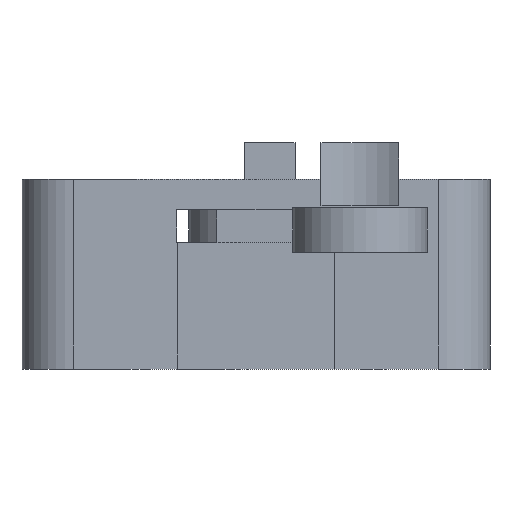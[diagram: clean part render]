
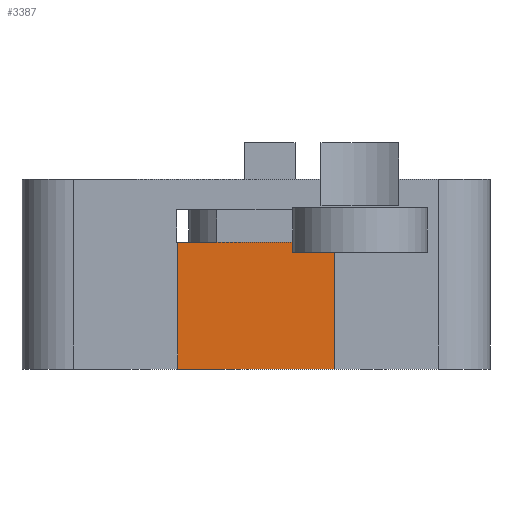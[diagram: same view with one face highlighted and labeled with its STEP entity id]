
A CAD part, left-side view. The second image highlights one B-rep face of the part: STEP entity #3387.
In plain terms, the highlighted planar face has unit normal (-1, 0, 0).
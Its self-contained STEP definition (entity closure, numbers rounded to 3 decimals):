
#72 = PLANE('',#73);
#73 = AXIS2_PLACEMENT_3D('',#74,#75,#76);
#74 = CARTESIAN_POINT('',(-9.,-47.,2.5));
#75 = DIRECTION('',(0.,0.,1.));
#76 = DIRECTION('',(1.,0.,-0.));
#100 = PLANE('',#101);
#101 = AXIS2_PLACEMENT_3D('',#102,#103,#104);
#102 = CARTESIAN_POINT('',(-10.5,-41.,2.5));
#103 = DIRECTION('',(0.,1.,0.));
#104 = DIRECTION('',(0.,-0.,1.));
#263 = PLANE('',#264);
#264 = AXIS2_PLACEMENT_3D('',#265,#266,#267);
#265 = CARTESIAN_POINT('',(-10.5,-35.,2.5));
#266 = DIRECTION('',(0.,1.,0.));
#267 = DIRECTION('',(0.,-0.,1.));
#818 = VERTEX_POINT('',#819);
#819 = CARTESIAN_POINT('',(-10.5,-35.,2.5));
#840 = EDGE_CURVE('',#841,#818,#843,.T.);
#841 = VERTEX_POINT('',#842);
#842 = CARTESIAN_POINT('',(-10.5,-41.,2.5));
#843 = SURFACE_CURVE('',#844,(#848,#855),.PCURVE_S1.);
#844 = LINE('',#845,#846);
#845 = CARTESIAN_POINT('',(-10.5,-41.,2.5));
#846 = VECTOR('',#847,1.);
#847 = DIRECTION('',(0.,1.,0.));
#848 = PCURVE('',#72,#849);
#849 = DEFINITIONAL_REPRESENTATION('',(#850),#854);
#850 = LINE('',#851,#852);
#851 = CARTESIAN_POINT('',(-1.5,6.));
#852 = VECTOR('',#853,1.);
#853 = DIRECTION('',(0.,1.));
#854 = ( GEOMETRIC_REPRESENTATION_CONTEXT(2) 
PARAMETRIC_REPRESENTATION_CONTEXT() REPRESENTATION_CONTEXT('2D SPACE',''
  ) );
#855 = PCURVE('',#856,#861);
#856 = PLANE('',#857);
#857 = AXIS2_PLACEMENT_3D('',#858,#859,#860);
#858 = CARTESIAN_POINT('',(-10.5,-41.,2.5));
#859 = DIRECTION('',(1.,0.,0.));
#860 = DIRECTION('',(0.,0.,1.));
#861 = DEFINITIONAL_REPRESENTATION('',(#862),#866);
#862 = LINE('',#863,#864);
#863 = CARTESIAN_POINT('',(0.,0.));
#864 = VECTOR('',#865,1.);
#865 = DIRECTION('',(0.,-1.));
#866 = ( GEOMETRIC_REPRESENTATION_CONTEXT(2) 
PARAMETRIC_REPRESENTATION_CONTEXT() REPRESENTATION_CONTEXT('2D SPACE',''
  ) );
#1347 = EDGE_CURVE('',#841,#1348,#1350,.T.);
#1348 = VERTEX_POINT('',#1349);
#1349 = CARTESIAN_POINT('',(-10.5,-41.,7.));
#1350 = SURFACE_CURVE('',#1351,(#1355,#1362),.PCURVE_S1.);
#1351 = LINE('',#1352,#1353);
#1352 = CARTESIAN_POINT('',(-10.5,-41.,2.5));
#1353 = VECTOR('',#1354,1.);
#1354 = DIRECTION('',(0.,0.,1.));
#1355 = PCURVE('',#100,#1356);
#1356 = DEFINITIONAL_REPRESENTATION('',(#1357),#1361);
#1357 = LINE('',#1358,#1359);
#1358 = CARTESIAN_POINT('',(0.,0.));
#1359 = VECTOR('',#1360,1.);
#1360 = DIRECTION('',(1.,0.));
#1361 = ( GEOMETRIC_REPRESENTATION_CONTEXT(2) 
PARAMETRIC_REPRESENTATION_CONTEXT() REPRESENTATION_CONTEXT('2D SPACE',''
  ) );
#1362 = PCURVE('',#856,#1363);
#1363 = DEFINITIONAL_REPRESENTATION('',(#1364),#1368);
#1364 = LINE('',#1365,#1366);
#1365 = CARTESIAN_POINT('',(0.,0.));
#1366 = VECTOR('',#1367,1.);
#1367 = DIRECTION('',(1.,0.));
#1368 = ( GEOMETRIC_REPRESENTATION_CONTEXT(2) 
PARAMETRIC_REPRESENTATION_CONTEXT() REPRESENTATION_CONTEXT('2D SPACE',''
  ) );
#1386 = PLANE('',#1387);
#1387 = AXIS2_PLACEMENT_3D('',#1388,#1389,#1390);
#1388 = CARTESIAN_POINT('',(-24.,-43.5,7.));
#1389 = DIRECTION('',(0.,0.,1.));
#1390 = DIRECTION('',(1.,0.,-0.));
#1442 = PLANE('',#1443);
#1443 = AXIS2_PLACEMENT_3D('',#1444,#1445,#1446);
#1444 = CARTESIAN_POINT('',(-10.5,-41.,7.38));
#1445 = DIRECTION('',(0.,0.,1.));
#1446 = DIRECTION('',(1.,0.,-0.));
#1755 = EDGE_CURVE('',#818,#1756,#1758,.T.);
#1756 = VERTEX_POINT('',#1757);
#1757 = CARTESIAN_POINT('',(-10.5,-35.,7.38));
#1758 = SURFACE_CURVE('',#1759,(#1763,#1770),.PCURVE_S1.);
#1759 = LINE('',#1760,#1761);
#1760 = CARTESIAN_POINT('',(-10.5,-35.,2.5));
#1761 = VECTOR('',#1762,1.);
#1762 = DIRECTION('',(0.,0.,1.));
#1763 = PCURVE('',#263,#1764);
#1764 = DEFINITIONAL_REPRESENTATION('',(#1765),#1769);
#1765 = LINE('',#1766,#1767);
#1766 = CARTESIAN_POINT('',(0.,0.));
#1767 = VECTOR('',#1768,1.);
#1768 = DIRECTION('',(1.,0.));
#1769 = ( GEOMETRIC_REPRESENTATION_CONTEXT(2) 
PARAMETRIC_REPRESENTATION_CONTEXT() REPRESENTATION_CONTEXT('2D SPACE',''
  ) );
#1770 = PCURVE('',#856,#1771);
#1771 = DEFINITIONAL_REPRESENTATION('',(#1772),#1776);
#1772 = LINE('',#1773,#1774);
#1773 = CARTESIAN_POINT('',(0.,-6.));
#1774 = VECTOR('',#1775,1.);
#1775 = DIRECTION('',(1.,0.));
#1776 = ( GEOMETRIC_REPRESENTATION_CONTEXT(2) 
PARAMETRIC_REPRESENTATION_CONTEXT() REPRESENTATION_CONTEXT('2D SPACE',''
  ) );
#3387 = ADVANCED_FACE('',(#3388),#856,.F.);
#3388 = FACE_BOUND('',#3389,.F.);
#3389 = EDGE_LOOP('',(#3390,#3391,#3392,#3393,#3416,#3444));
#3390 = ORIENTED_EDGE('',*,*,#1347,.F.);
#3391 = ORIENTED_EDGE('',*,*,#840,.T.);
#3392 = ORIENTED_EDGE('',*,*,#1755,.T.);
#3393 = ORIENTED_EDGE('',*,*,#3394,.F.);
#3394 = EDGE_CURVE('',#3395,#1756,#3397,.T.);
#3395 = VERTEX_POINT('',#3396);
#3396 = CARTESIAN_POINT('',(-10.5,-40.5,7.38));
#3397 = SURFACE_CURVE('',#3398,(#3402,#3409),.PCURVE_S1.);
#3398 = LINE('',#3399,#3400);
#3399 = CARTESIAN_POINT('',(-10.5,-41.,7.38));
#3400 = VECTOR('',#3401,1.);
#3401 = DIRECTION('',(0.,1.,0.));
#3402 = PCURVE('',#856,#3403);
#3403 = DEFINITIONAL_REPRESENTATION('',(#3404),#3408);
#3404 = LINE('',#3405,#3406);
#3405 = CARTESIAN_POINT('',(4.88,0.));
#3406 = VECTOR('',#3407,1.);
#3407 = DIRECTION('',(0.,-1.));
#3408 = ( GEOMETRIC_REPRESENTATION_CONTEXT(2) 
PARAMETRIC_REPRESENTATION_CONTEXT() REPRESENTATION_CONTEXT('2D SPACE',''
  ) );
#3409 = PCURVE('',#1442,#3410);
#3410 = DEFINITIONAL_REPRESENTATION('',(#3411),#3415);
#3411 = LINE('',#3412,#3413);
#3412 = CARTESIAN_POINT('',(0.,0.));
#3413 = VECTOR('',#3414,1.);
#3414 = DIRECTION('',(0.,1.));
#3415 = ( GEOMETRIC_REPRESENTATION_CONTEXT(2) 
PARAMETRIC_REPRESENTATION_CONTEXT() REPRESENTATION_CONTEXT('2D SPACE',''
  ) );
#3416 = ORIENTED_EDGE('',*,*,#3417,.F.);
#3417 = EDGE_CURVE('',#3418,#3395,#3420,.T.);
#3418 = VERTEX_POINT('',#3419);
#3419 = CARTESIAN_POINT('',(-10.5,-40.5,7.));
#3420 = SURFACE_CURVE('',#3421,(#3425,#3432),.PCURVE_S1.);
#3421 = LINE('',#3422,#3423);
#3422 = CARTESIAN_POINT('',(-10.5,-40.5,4.75));
#3423 = VECTOR('',#3424,1.);
#3424 = DIRECTION('',(0.,0.,1.));
#3425 = PCURVE('',#856,#3426);
#3426 = DEFINITIONAL_REPRESENTATION('',(#3427),#3431);
#3427 = LINE('',#3428,#3429);
#3428 = CARTESIAN_POINT('',(2.25,-0.5));
#3429 = VECTOR('',#3430,1.);
#3430 = DIRECTION('',(1.,0.));
#3431 = ( GEOMETRIC_REPRESENTATION_CONTEXT(2) 
PARAMETRIC_REPRESENTATION_CONTEXT() REPRESENTATION_CONTEXT('2D SPACE',''
  ) );
#3432 = PCURVE('',#3433,#3438);
#3433 = PLANE('',#3434);
#3434 = AXIS2_PLACEMENT_3D('',#3435,#3436,#3437);
#3435 = CARTESIAN_POINT('',(-24.,-40.5,7.));
#3436 = DIRECTION('',(0.,1.,0.));
#3437 = DIRECTION('',(0.,-0.,1.));
#3438 = DEFINITIONAL_REPRESENTATION('',(#3439),#3443);
#3439 = LINE('',#3440,#3441);
#3440 = CARTESIAN_POINT('',(-2.25,13.5));
#3441 = VECTOR('',#3442,1.);
#3442 = DIRECTION('',(1.,0.));
#3443 = ( GEOMETRIC_REPRESENTATION_CONTEXT(2) 
PARAMETRIC_REPRESENTATION_CONTEXT() REPRESENTATION_CONTEXT('2D SPACE',''
  ) );
#3444 = ORIENTED_EDGE('',*,*,#3445,.T.);
#3445 = EDGE_CURVE('',#3418,#1348,#3446,.T.);
#3446 = SURFACE_CURVE('',#3447,(#3451,#3458),.PCURVE_S1.);
#3447 = LINE('',#3448,#3449);
#3448 = CARTESIAN_POINT('',(-10.5,-42.25,7.));
#3449 = VECTOR('',#3450,1.);
#3450 = DIRECTION('',(0.,-1.,0.));
#3451 = PCURVE('',#856,#3452);
#3452 = DEFINITIONAL_REPRESENTATION('',(#3453),#3457);
#3453 = LINE('',#3454,#3455);
#3454 = CARTESIAN_POINT('',(4.5,1.25));
#3455 = VECTOR('',#3456,1.);
#3456 = DIRECTION('',(0.,1.));
#3457 = ( GEOMETRIC_REPRESENTATION_CONTEXT(2) 
PARAMETRIC_REPRESENTATION_CONTEXT() REPRESENTATION_CONTEXT('2D SPACE',''
  ) );
#3458 = PCURVE('',#1386,#3459);
#3459 = DEFINITIONAL_REPRESENTATION('',(#3460),#3464);
#3460 = LINE('',#3461,#3462);
#3461 = CARTESIAN_POINT('',(13.5,1.25));
#3462 = VECTOR('',#3463,1.);
#3463 = DIRECTION('',(0.,-1.));
#3464 = ( GEOMETRIC_REPRESENTATION_CONTEXT(2) 
PARAMETRIC_REPRESENTATION_CONTEXT() REPRESENTATION_CONTEXT('2D SPACE',''
  ) );
